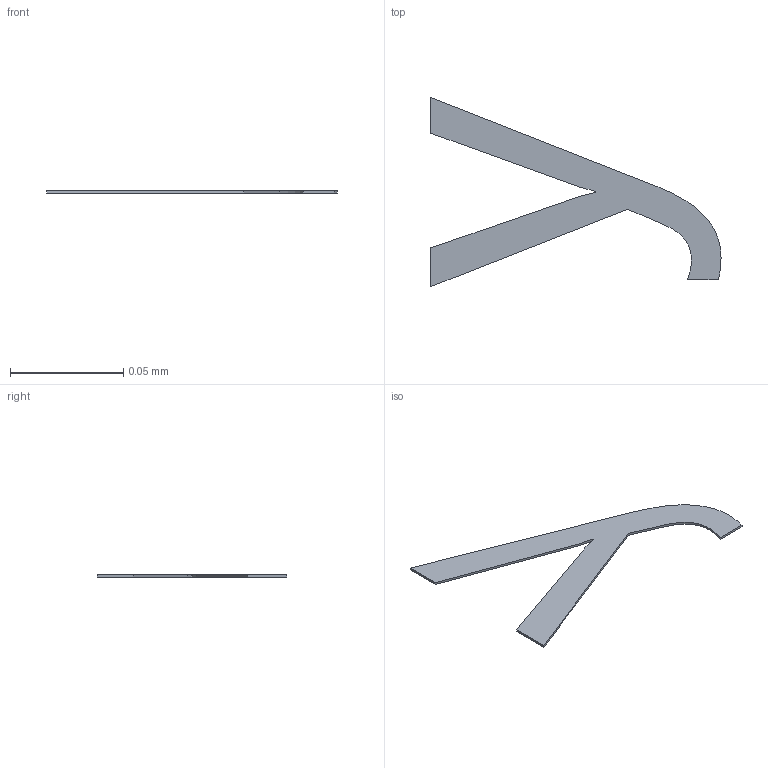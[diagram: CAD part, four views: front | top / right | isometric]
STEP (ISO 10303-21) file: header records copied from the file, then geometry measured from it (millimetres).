
FILE_DESCRIPTION(/* description */ ('STEP AP242 Edition 2','CAx-IF Rec.Pracs.---Representation and Presentation of Product Manufacturing Information (PMI)---4.0---2014-10-13','CAx-IF Rec.Pracs.---3D Tessellated Geometry---0.4---2014-09-14','2;1','CAx-IF Rec.Pracs.---User Defined Attributes---1.5---2016-08-15'),/* implementation_level */ '2;1');
FILE_NAME(/* name */ 'Assembly 1 - SOT-223_L6.5-W3.5-P2.30-LS7.0-BR~SOT-223-4P_L6.5-W3.5-H1.6-LS7.0-P2.30~nxQB (2)',/* time_stamp */ '2026-04-02T09:55:22Z',/* author */ (''),/* organization */ (''),/* preprocessor_version */ 'ST-DEVELOPER v20',/* originating_system */ 'ONSHAPE BY PTC INC, 1.212',/* authorisation */ ' ');
FILE_SCHEMA (('AP242_MANAGED_MODEL_BASED_3D_ENGINEERING_MIM_LF { 1 0 10303 442 3 1 4 }'));
Length unit declared in the file: metre
Products named in the file (1): SOT-223_L6.5-W3.5-P2.30-LS7.0-BR~SOT-223-4P_L6.5-W3.5-H1.6-LS7.0-P2.3
0~nxQB
Bounding box: 0.13 x 0.08 x 0 mm (x, y, z)
Volume: 0 mm3; surface area: 0 mm2
Topology: 1 solids, 1 shells, 17 faces, 45 edges, 30 vertices
Faces by surface type: plane 12, bspline 5
Entity records: 691 total; most frequent: CARTESIAN_POINT 152, ORIENTED_EDGE 90, DIRECTION 65, EDGE_CURVE 45, LINE 35, VECTOR 35, VERTEX_POINT 30, PRESENTATION_STYLE_ASSIGNMENT 18
